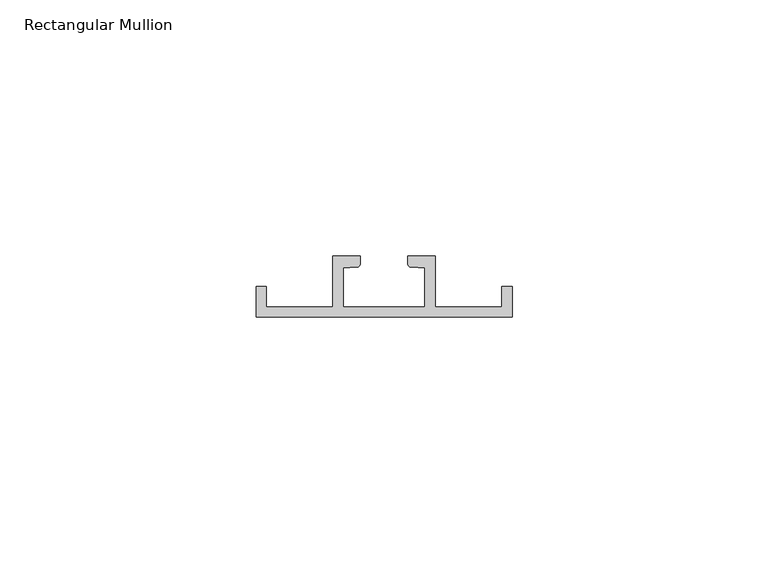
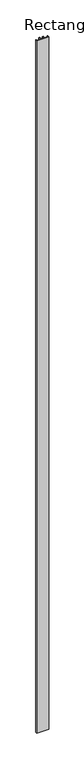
"""IFC4 building model written with IfcOpenShell, lengths in millimetres: member geometry, Rectangular Mullion : RSen_21_CWM_support profile - 50x12 - right_duco projects."""

import ifcopenshell
import ifcopenshell.guid

model = None  # the IFC model being written
_history = None  # IfcOwnerHistory: only IFC2X3 demands one
_inside = {}  # id of a spatial element -> (the spatial element, [elements in it])
_under = {}  # id of a project, library or spatial element -> (it, [spatial elements below it])
_declared = {}  # id of a project -> (the project, [libraries it declares])
_typed = {}  # id of a type object -> (the type object, [elements of that type])
_made_of = {}  # id of a material, layer set ... -> (it, [elements and type objects made of it])


def new_model(schema):
    """Start an empty IFC model of exactly this schema.

    Asked for "IFC4X3", IfcOpenShell would pick the latest addendum, in which some entities
    have other attributes; the version numbers below select the first issue.
    IFC2X3 requires an IfcOwnerHistory on every rooted entity: one is made here for all.
    """
    global model, _history
    if schema == "IFC4X3":
        model = ifcopenshell.file(schema_version=(4, 3, 0, 0))
    else:
        model = ifcopenshell.file(schema=schema)
    _inside.clear()
    _under.clear()
    _declared.clear()
    _typed.clear()
    _made_of.clear()
    _history = None
    if model.schema == "IFC2X3":
        org = make("IfcOrganization", Name="unknown")
        user = make(
            "IfcPersonAndOrganization",
            ThePerson=make("IfcPerson", FamilyName="unknown"),
            TheOrganization=org,
        )
        app = make(
            "IfcApplication",
            ApplicationDeveloper=org,
            Version="unknown",
            ApplicationFullName="unknown",
            ApplicationIdentifier="unknown",
        )
        _history = make(
            "IfcOwnerHistory",
            OwningUser=user,
            OwningApplication=app,
            ChangeAction="ADDED",
            CreationDate=0,
        )
    return model


def make(cls, **values):
    """One entity of the class cls with the attributes given. An attribute that is None is left unset."""
    return model.create_entity(
        cls, **{name: value for name, value in values.items() if value is not None}
    )


def rooted(cls, **values):
    """An entity with a GlobalId (a new one), such as an element, a storey or a relation."""
    return make(cls, GlobalId=ifcopenshell.guid.new(), OwnerHistory=_history, **values)


def si_unit(unit_type, name, prefix=None):
    """IfcSIUnit, for example si_unit("LENGTHUNIT", "METRE", prefix="MILLI")."""
    return make("IfcSIUnit", UnitType=unit_type, Prefix=prefix, Name=name)


def assignment(units):
    """IfcUnitAssignment: the units of a project."""
    return None if units is None else make("IfcUnitAssignment", Units=units)


def point(xyz):
    """IfcCartesianPoint."""
    return None if xyz is None else make("IfcCartesianPoint", Coordinates=xyz)


def direction(xyz):
    """IfcDirection."""
    return None if xyz is None else make("IfcDirection", DirectionRatios=xyz)


def frame(location, z_axis=None, x_axis=None):
    """IfcAxis2Placement3D, a coordinate frame: its origin and axes. An axis left out is left unset."""
    return make(
        "IfcAxis2Placement3D",
        Location=point(location),
        Axis=direction(z_axis),
        RefDirection=direction(x_axis),
    )


def frame_2d(location, x_axis=None):
    """IfcAxis2Placement2D, a coordinate frame in the plane: its origin and x axis."""
    return make(
        "IfcAxis2Placement2D", Location=point(location), RefDirection=direction(x_axis)
    )


def origin():
    """The frame at (0, 0, 0) with its axes left unset."""
    return frame((0.0, 0.0, 0.0))


def place(relative_to, where):
    """IfcLocalPlacement: puts the frame where relative to a parent placement (None: the world)."""
    return make(
        "IfcLocalPlacement", PlacementRelTo=relative_to, RelativePlacement=where
    )


def context(
    kind, dimensions, precision=None, world=None, true_north=None, identifier=None
):
    """IfcGeometricRepresentationContext, for example the 3D "Model" context."""
    return make(
        "IfcGeometricRepresentationContext",
        ContextIdentifier=identifier,
        ContextType=kind,
        CoordinateSpaceDimension=dimensions,
        Precision=precision,
        WorldCoordinateSystem=world,
        TrueNorth=true_north,
    )


def project(units=None, contexts=None):
    """IfcProject with its units and contexts."""
    return rooted(
        "IfcProject",
        Name="project",
        RepresentationContexts=contexts,
        UnitsInContext=assignment(units),
    )


def spatial(cls, under=None, at=None, **own):
    """A site, building, storey or space (cls), placed at a placement, below another one or the project."""
    s = rooted(cls, ObjectPlacement=at, **own)
    if under is not None:
        _under.setdefault(under.id(), (under, []))[1].append(s)
    return s


def polyline(points):
    """IfcPolyline through the points."""
    return make("IfcPolyline", Points=[point(p) for p in points])


def circle_curve(where, radius):
    """IfcCircle in the frame where."""
    return make("IfcCircle", Position=where, Radius=radius)


def trimmed(basis, trim1, trim2, sense, master):
    """IfcTrimmedCurve: the piece of a basis curve between two trims."""
    return make(
        "IfcTrimmedCurve",
        BasisCurve=basis,
        Trim1=trim1,
        Trim2=trim2,
        SenseAgreement=sense,
        MasterRepresentation=master,
    )


def segment(curve, same_sense, transition):
    """IfcCompositeCurveSegment."""
    return make(
        "IfcCompositeCurveSegment",
        Transition=transition,
        SameSense=same_sense,
        ParentCurve=curve,
    )


def composite_curve(segments, self_intersect=None):
    """IfcCompositeCurve: segments joined end to end."""
    return make("IfcCompositeCurve", Segments=segments, SelfIntersect=self_intersect)


def outline(outer, holes=None, kind="AREA"):
    """IfcArbitraryClosedProfileDef: a profile drawn as a closed curve; with holes, ...WithVoids."""
    if holes is None:
        return make("IfcArbitraryClosedProfileDef", ProfileType=kind, OuterCurve=outer)
    return make(
        "IfcArbitraryProfileDefWithVoids",
        ProfileType=kind,
        OuterCurve=outer,
        InnerCurves=holes,
    )


def extrude(swept, where, along, depth):
    """IfcExtrudedAreaSolid: the profile swept, set in the frame where, extruded along a direction by depth."""
    return make(
        "IfcExtrudedAreaSolid",
        SweptArea=swept,
        Position=where,
        ExtrudedDirection=direction(along),
        Depth=depth,
    )


def shape(context_of_items, identifier, shape_type, items):
    """IfcShapeRepresentation: the items that make up one representation, for example the "Body"."""
    return make(
        "IfcShapeRepresentation",
        ContextOfItems=context_of_items,
        RepresentationIdentifier=identifier,
        RepresentationType=shape_type,
        Items=items,
    )


def source(mapping_origin, context_of_items, identifier, shape_type, items):
    """IfcRepresentationMap: a shape defined once, which mapped items show again and again."""
    return make(
        "IfcRepresentationMap",
        MappingOrigin=mapping_origin,
        MappedRepresentation=shape(context_of_items, identifier, shape_type, items),
    )


def transform(
    local_origin,
    x_axis=None,
    y_axis=None,
    z_axis=None,
    scale=None,
    scale2=None,
    scale3=None,
    uniform=True,
):
    """IfcCartesianTransformationOperator3D, or its non-uniform kind. x_axis, y_axis, z_axis: its Axis1, 2, 3."""
    if uniform:
        return make(
            "IfcCartesianTransformationOperator3D",
            Axis1=direction(x_axis),
            Axis2=direction(y_axis),
            LocalOrigin=point(local_origin),
            Scale=scale,
            Axis3=direction(z_axis),
        )
    return make(
        "IfcCartesianTransformationOperator3DnonUniform",
        Axis1=direction(x_axis),
        Axis2=direction(y_axis),
        LocalOrigin=point(local_origin),
        Scale=scale,
        Axis3=direction(z_axis),
        Scale2=scale2,
        Scale3=scale3,
    )


def mapped(mapping_source, mapping_target):
    """IfcMappedItem: shows the shape of a source again, moved by a transform."""
    return make(
        "IfcMappedItem", MappingSource=mapping_source, MappingTarget=mapping_target
    )


def made_of(thing, what):
    """Note that an element or type object is made of a material, layer set ...; save() writes the relation."""
    if what is not None:
        _made_of.setdefault(what.id(), (what, []))[1].append(thing)
    return thing


def element(
    cls,
    number,
    at=None,
    inside=None,
    cuts=None,
    type_object=None,
    material=None,
    context=None,
    identifier="Body",
    shape_type=None,
    held_by="IfcProductDefinitionShape",
    body=None,
    shapes=None,
    **own,
):
    """One element of the class cls, such as IfcWall. Its Tag is "e" and its number.

    at: its placement. inside: the storey or other place that contains it. cuts: it is an
    opening in that element (IfcRelVoidsElement). A single representation is given by context,
    identifier, shape_type and body (its items); several are given by shapes. held_by: the class
    of the entity that holds the representations. save() writes the other relations.
    """
    e = rooted(cls, Tag="e%d" % number, ObjectPlacement=at, **own)
    if body is not None:
        shapes = [shape(context, identifier, shape_type, body)]
    if shapes is not None:
        e.Representation = make(held_by, Representations=shapes)
    if inside is not None:
        _inside.setdefault(inside.id(), (inside, []))[1].append(e)
    if cuts is not None:
        rooted(
            "IfcRelVoidsElement", RelatingBuildingElement=cuts, RelatedOpeningElement=e
        )
    if type_object is not None:
        _typed.setdefault(type_object.id(), (type_object, []))[1].append(e)
    return made_of(e, material)


def aggregate(whole, parts):
    """IfcRelAggregates: a whole, such as a stair, and the parts it consists of."""
    return rooted("IfcRelAggregates", RelatingObject=whole, RelatedObjects=parts)


def save(model, path):
    """Write the relations noted so far, then the file.

    IfcRelAggregates (storeys below a building ...), IfcRelContainedInSpatialStructure (elements
    in a storey), IfcRelDefinesByType, IfcRelAssociatesMaterial and IfcRelDeclares: one each for
    every whole, place, type object, material and project.
    """
    for whole, parts in _under.values():
        aggregate(whole, parts)
    for where, things in _inside.values():
        rooted(
            "IfcRelContainedInSpatialStructure",
            RelatedElements=things,
            RelatingStructure=where,
        )
    for kind, things in _typed.values():
        rooted("IfcRelDefinesByType", RelatedObjects=things, RelatingType=kind)
    for what, things in _made_of.values():
        rooted("IfcRelAssociatesMaterial", RelatedObjects=things, RelatingMaterial=what)
    for by, libraries in _declared.values():
        rooted("IfcRelDeclares", RelatingContext=by, RelatedDefinitions=libraries)
    model.write(path)


def rectangular_mullion_95122cee(model_context):
    return source(origin(), model_context, "Body", "SweptSolid", [
        extrude(outline(composite_curve([segment(polyline([(-70.35, 1.0), (-65.0, 1.0), (-65.0, -9.0), (-52.0, -9.0), (-52.0, -5.0), (-50.0, -5.0), (-50.0, -11.0), (-100.0, -11.0), (-100.0, -5.0), (-98.0, -5.0), (-98.0, -9.0), (-85.0, -9.0), (-85.0, 1.0), (-79.65, 1.0), (-79.65, -0.5472394)]), True, "CONTINUOUS"), segment(trimmed(circle_curve(frame_2d((-80.35, -0.5472394)), 0.7), [point((-79.65, -0.5472394))], [point((-80.3011705, -1.2455343))], False, "CARTESIAN"), True, "CONTINUOUS"), segment(polyline([(-80.3011705, -1.2455343), (-83.0, -1.4342548), (-83.0, -9.0), (-67.0, -9.0), (-67.0, -1.4342548), (-69.6988295, -1.2455343)]), True, "CONTINUOUS"), segment(trimmed(circle_curve(frame_2d((-69.65, -0.5472394)), 0.7), [point((-69.6988295, -1.2455343))], [point((-70.35, -0.5472394))], False, "CARTESIAN"), True, "CONTINUOUS"), segment(polyline([(-70.35, -0.5472394), (-70.35, 1.0)]), True, "CONTINUOUS")], self_intersect=False)), frame((0.0, 0.0, -3000.0), z_axis=(0.0, 0.0, 1.0), x_axis=(1.0, 0.0, 0.0)), (0.0, 0.0, 1.0), 3000.0),
    ])


if __name__ == "__main__":
    model = new_model("IFC4")
    model_context = context("Model", 3, world=origin())
    ifc_project = project(units=[si_unit("LENGTHUNIT", "METRE", prefix="MILLI")], contexts=[model_context])
    site = spatial("IfcSite", under=ifc_project)
    building = spatial("IfcBuilding", under=site)
    placement = place(None, origin())
    rectangular_mullion_shape = rectangular_mullion_95122cee(model_context)
    element("IfcMember", 1, ObjectType="Rectangular Mullion : RSen_21_CWM_support profile - 50x12 - right_duco projects", at=placement, inside=building, context=model_context, shape_type="MappedRepresentation", body=[
        mapped(rectangular_mullion_shape, transform((0.0, 0.0, 0.0), x_axis=(1.0, 0.0, 0.0), y_axis=(0.0, 1.0, 0.0), z_axis=(0.0, 0.0, 1.0))),
    ])
    save(model, "model.ifc")
